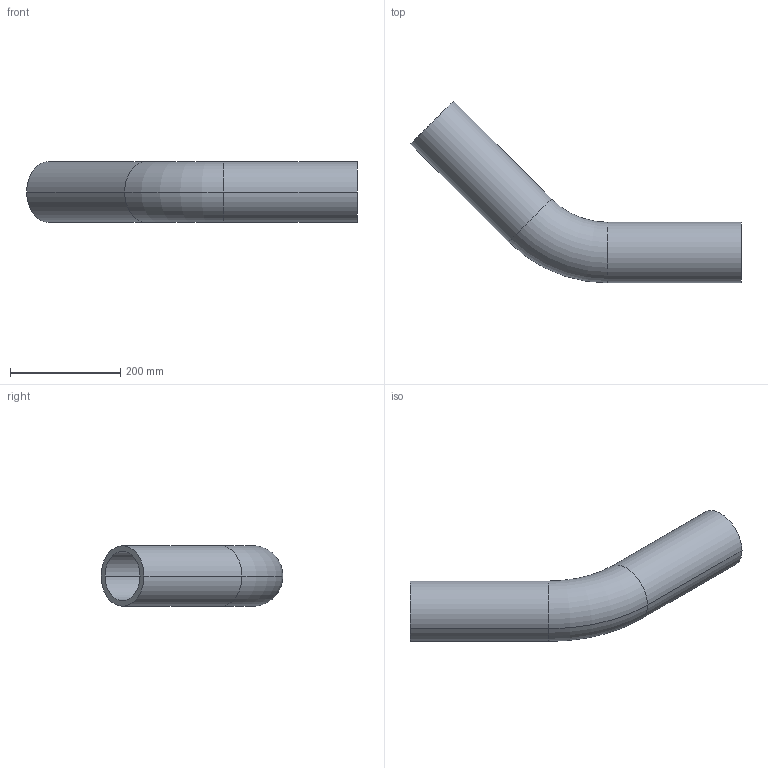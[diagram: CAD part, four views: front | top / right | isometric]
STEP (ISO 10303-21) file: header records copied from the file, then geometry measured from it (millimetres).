
FILE_DESCRIPTION (( 'STEP AP203' ), '1' );
FILE_NAME ('KP_4-110F.step', '2011-08-08T11:40:24', ( '' ), ( '' ), 'SwSTEP 2.0', 'SolidWorks 2011', '' );
FILE_SCHEMA (( 'CONFIG_CONTROL_DESIGN' ));
Length unit declared in the file: millimetre
Products named in the file (1): KP_4-110F
Bounding box: 600 x 330 x 110 mm (x, y, z)
Volume: 2061489.8 mm3; surface area: 414555.5 mm2
Topology: 1 solids, 1 shells, 14 faces, 28 edges, 16 vertices
Faces by surface type: cylinder 8, torus 4, plane 2
Entity records: 449 total; most frequent: DIRECTION 78, CARTESIAN_POINT 59, ORIENTED_EDGE 56, AXIS2_PLACEMENT_3D 35, EDGE_CURVE 28, CIRCLE 20, VERTEX_POINT 16, EDGE_LOOP 16
